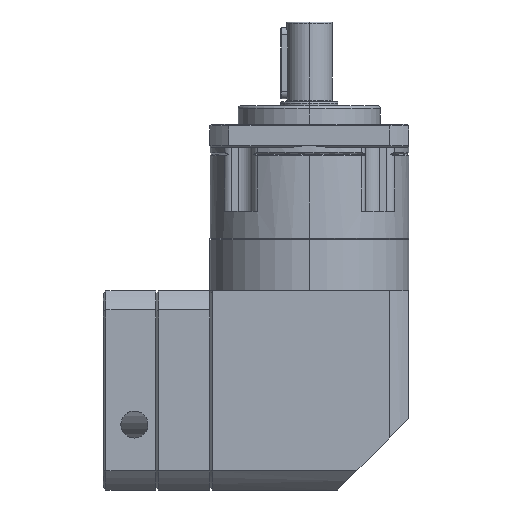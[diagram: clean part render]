
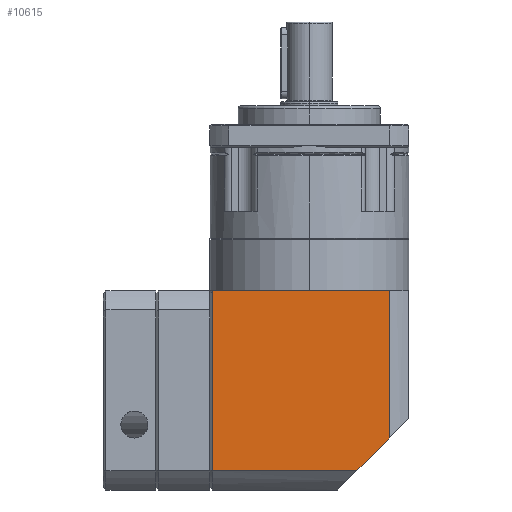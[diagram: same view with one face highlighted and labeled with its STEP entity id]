
A CAD part, left-side view. The second image highlights one B-rep face of the part: STEP entity #10615.
In plain terms, the highlighted planar face has unit normal (-1, 0, 0).
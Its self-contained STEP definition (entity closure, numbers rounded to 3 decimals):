
#174 = EDGE_LOOP ( 'NONE', ( #8612, #5487, #6215, #6749, #7868, #4859 ) ) ;
#296 = CARTESIAN_POINT ( 'NONE',  ( -35., -10., -128.5 ) ) ;
#371 = EDGE_CURVE ( 'NONE', #5774, #10849, #2737, .T. ) ;
#386 = DIRECTION ( 'NONE',  ( 0., -0.707, 0.707 ) ) ;
#915 = CARTESIAN_POINT ( 'NONE',  ( -35., 34., -40.5 ) ) ;
#1089 = CARTESIAN_POINT ( 'NONE',  ( -35., -28.284, -58.5 ) ) ;
#1281 = DIRECTION ( 'NONE',  ( -1., 0., 0. ) ) ;
#1601 = VECTOR ( 'NONE', #9438, 1000. ) ;
#2035 = EDGE_CURVE ( 'NONE', #5774, #8595, #8791, .T. ) ;
#2100 = LINE ( 'NONE', #3330, #10981 ) ;
#2737 = LINE ( 'NONE', #8332, #10757 ) ;
#2843 = CARTESIAN_POINT ( 'NONE',  ( -35., 35., -58.5 ) ) ;
#3077 = VECTOR ( 'NONE', #10431, 1000. ) ;
#3296 = CARTESIAN_POINT ( 'NONE',  ( -35., 34., -121.784 ) ) ;
#3330 = CARTESIAN_POINT ( 'NONE',  ( -35., -28.284, -40.5 ) ) ;
#3857 = CARTESIAN_POINT ( 'NONE',  ( -35., -16.716, -121.784 ) ) ;
#4240 = VECTOR ( 'NONE', #386, 1000. ) ;
#4317 = FACE_OUTER_BOUND ( 'NONE', #174, .T. ) ;
#4353 = CARTESIAN_POINT ( 'NONE',  ( -35., 0., -58.5 ) ) ;
#4446 = CARTESIAN_POINT ( 'NONE',  ( -35., 28.284, -58.5 ) ) ;
#4572 = LINE ( 'NONE', #2843, #9115 ) ;
#4609 = CARTESIAN_POINT ( 'NONE',  ( -35., 34., -58.5 ) ) ;
#4859 = ORIENTED_EDGE ( 'NONE', *, *, #2035, .T. ) ;
#5151 = VERTEX_POINT ( 'NONE', #4353 ) ;
#5336 = EDGE_CURVE ( 'NONE', #8748, #8595, #2100, .T. ) ;
#5487 = ORIENTED_EDGE ( 'NONE', *, *, #10401, .T. ) ;
#5518 = LINE ( 'NONE', #4446, #3077 ) ;
#5774 = VERTEX_POINT ( 'NONE', #3857 ) ;
#6215 = ORIENTED_EDGE ( 'NONE', *, *, #8231, .T. ) ;
#6327 = VERTEX_POINT ( 'NONE', #4609 ) ;
#6426 = CARTESIAN_POINT ( 'NONE',  ( -35., 28.284, -40.5 ) ) ;
#6749 = ORIENTED_EDGE ( 'NONE', *, *, #10957, .T. ) ;
#7052 = AXIS2_PLACEMENT_3D ( 'NONE', #6426, #1281, #7255 ) ;
#7218 = PLANE ( 'NONE',  #7052 ) ;
#7255 = DIRECTION ( 'NONE',  ( 0., 0., 1. ) ) ;
#7868 = ORIENTED_EDGE ( 'NONE', *, *, #371, .F. ) ;
#7927 = DIRECTION ( 'NONE',  ( 0., 1., 0. ) ) ;
#8231 = EDGE_CURVE ( 'NONE', #5151, #6327, #4572, .T. ) ;
#8332 = CARTESIAN_POINT ( 'NONE',  ( -35., -35., -121.784 ) ) ;
#8337 = DIRECTION ( 'NONE',  ( 0., 1., 0. ) ) ;
#8430 = DIRECTION ( 'NONE',  ( 0., 0., -1. ) ) ;
#8595 = VERTEX_POINT ( 'NONE', #9374 ) ;
#8612 = ORIENTED_EDGE ( 'NONE', *, *, #5336, .F. ) ;
#8748 = VERTEX_POINT ( 'NONE', #1089 ) ;
#8791 = LINE ( 'NONE', #296, #4240 ) ;
#9115 = VECTOR ( 'NONE', #7927, 1000. ) ;
#9374 = CARTESIAN_POINT ( 'NONE',  ( -35., -28.284, -110.216 ) ) ;
#9438 = DIRECTION ( 'NONE',  ( 0., 0., -1. ) ) ;
#10401 = EDGE_CURVE ( 'NONE', #8748, #5151, #5518, .T. ) ;
#10431 = DIRECTION ( 'NONE',  ( 0., 1., 0. ) ) ;
#10450 = LINE ( 'NONE', #915, #1601 ) ;
#10615 = ADVANCED_FACE ( 'NONE', ( #4317 ), #7218, .T. ) ;
#10757 = VECTOR ( 'NONE', #8337, 1000. ) ;
#10849 = VERTEX_POINT ( 'NONE', #3296 ) ;
#10957 = EDGE_CURVE ( 'NONE', #6327, #10849, #10450, .T. ) ;
#10981 = VECTOR ( 'NONE', #8430, 1000. ) ;
